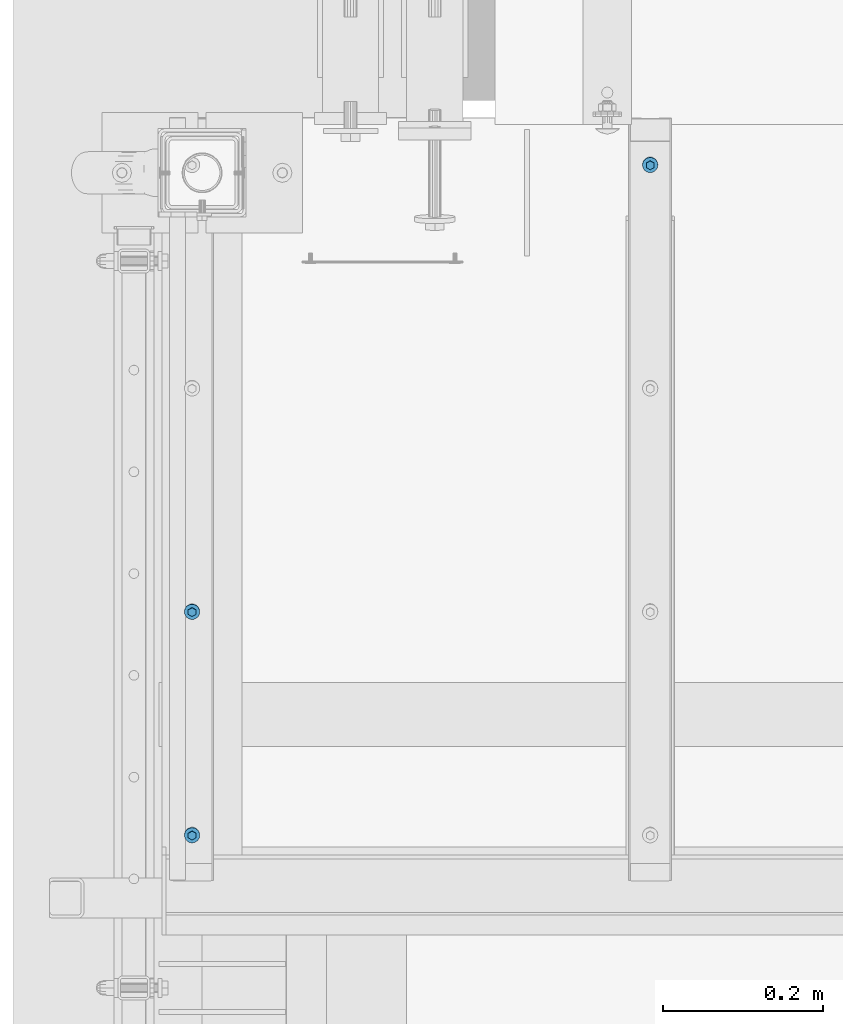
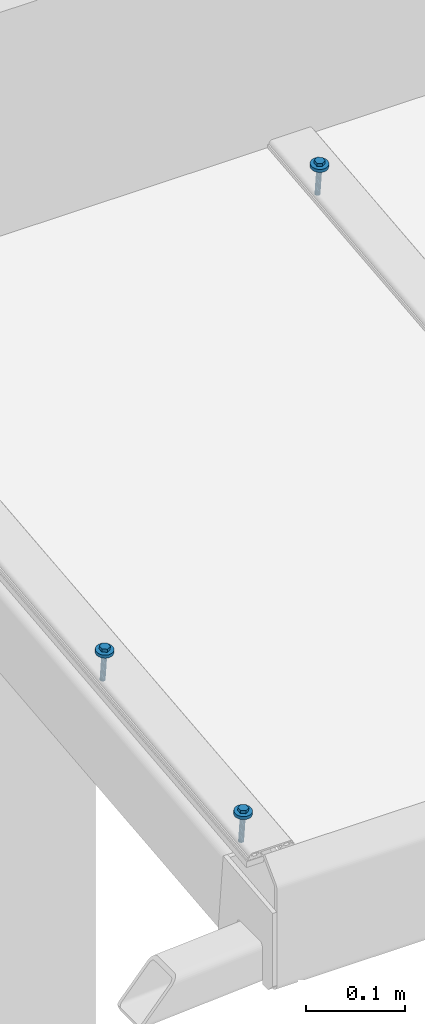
# One storey, part 57 of 116: 3 mechanical fasteners.
"""IFC2X3 building model written with IfcOpenShell, lengths in millimetres."""

from ifc_helpers import new_model, entity, si_unit, converted_unit, origin_with_axes, place, context, project, spatial, faceted_brep, element, save


model = new_model("IFC2X3")

# Units and contexts
model_context = context("Model", 3, precision=1e-09, world=origin_with_axes())
ifc_project = project(units=[si_unit("LENGTHUNIT", "METRE", prefix="MILLI"), si_unit("AREAUNIT", "SQUARE_METRE"), si_unit("VOLUMEUNIT", "CUBIC_METRE"), converted_unit("PLANEANGLEUNIT", "DEGREE", entity("IfcPlaneAngleMeasure", 0.01745329), si_unit("PLANEANGLEUNIT", "RADIAN"), dimensions=[0, 0, 0, 0, 0, 0, 0])], contexts=[model_context])

# Site, building, storey
site_placement = place(None, origin_with_axes())
site = spatial("IfcSite", under=ifc_project, at=site_placement, Name="Site", CompositionType="ELEMENT")
building_placement = place(site_placement, origin_with_axes())
building = spatial("IfcBuilding", under=site, at=building_placement, Name="Struktur 1", CompositionType="ELEMENT")
storey_placement = place(building_placement, origin_with_axes())
storey = spatial("IfcBuildingStorey", under=building, at=storey_placement, Name="Default Storey", CompositionType="ELEMENT", Elevation=0.0)

# Mechanical fasteners
mechanical_fastener_1_placement = place(None, origin_with_axes())
element("IfcMechanicalFastener", 1, at=mechanical_fastener_1_placement, inside=storey, ObjectType="-", NominalDiameter=6.0, NominalLength=40.0, context=model_context, shape_type="Brep", body=[
    faceted_brep([(55886.049134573, 11972.018174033, 2614.908351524), (55886.049134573, 11972.436287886, 2610.930263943), (55886.231674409, 11970.593082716, 2610.736535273), (55886.231674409, 11970.174968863, 2614.714622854), (55886.772279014, 11968.820710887, 2610.550251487), (55886.772279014, 11968.402597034, 2614.528339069), (55887.650173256, 11967.187283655, 2610.378571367), (55887.650173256, 11966.769169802, 2614.356658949), (55888.831620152, 11965.755572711, 2610.228092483), (55888.831620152, 11965.337458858, 2614.206180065), (55890.27121736, 11964.580597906, 2610.104597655), (55890.27121736, 11964.162484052, 2614.082685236), (55891.913641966, 11963.70751286, 2610.012832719), (55891.913641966, 11963.289399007, 2613.9909203), (55893.695776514, 11963.169869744, 2609.95632415), (55893.695776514, 11962.751755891, 2613.934411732), (55895.549134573, 11962.98832988, 2609.937243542), (55895.549134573, 11962.570216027, 2613.915331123), (55897.402492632, 11963.169869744, 2609.95632415), (55897.402492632, 11962.751755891, 2613.934411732), (55899.184627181, 11963.70751286, 2610.012832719), (55899.184627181, 11963.289399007, 2613.9909203), (55900.827051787, 11964.580597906, 2610.104597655), (55900.827051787, 11964.162484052, 2614.082685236), (55902.266648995, 11965.755572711, 2610.228092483), (55902.266648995, 11965.337458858, 2614.206180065), (55903.44809589, 11967.187283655, 2610.378571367), (55903.44809589, 11966.769169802, 2614.356658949), (55904.325990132, 11968.820710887, 2610.550251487), (55904.325990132, 11968.402597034, 2614.528339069), (55904.866594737, 11970.593082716, 2610.736535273), (55904.866594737, 11970.174968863, 2614.714622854), (55905.049134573, 11972.436287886, 2610.930263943), (55905.049134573, 11972.018174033, 2614.908351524), (55904.866594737, 11974.279493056, 2611.123992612), (55904.866594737, 11973.861379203, 2615.102080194), (55904.325990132, 11976.051864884, 2611.310276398), (55904.325990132, 11975.633751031, 2615.28836398), (55903.44809589, 11977.685292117, 2611.481956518), (55903.44809589, 11977.267178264, 2615.4600441), (55902.266648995, 11979.11700306, 2611.632435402), (55902.266648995, 11978.698889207, 2615.610522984), (55900.827051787, 11980.291977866, 2611.755930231), (55900.827051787, 11979.873864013, 2615.734017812), (55899.184627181, 11981.165062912, 2611.847695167), (55899.184627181, 11980.746949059, 2615.825782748), (55897.402492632, 11981.702706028, 2611.904203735), (55897.402492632, 11981.284592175, 2615.882291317), (55895.549134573, 11981.884245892, 2611.923284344), (55895.549134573, 11981.466132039, 2615.901371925), (55893.695776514, 11981.702706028, 2611.904203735), (55893.695776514, 11981.284592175, 2615.882291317), (55891.913641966, 11981.165062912, 2611.847695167), (55891.913641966, 11980.746949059, 2615.825782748), (55890.27121736, 11980.291977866, 2611.755930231), (55890.27121736, 11979.873864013, 2615.734017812), (55888.831620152, 11979.11700306, 2611.632435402), (55888.831620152, 11978.698889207, 2615.610522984), (55887.650173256, 11977.685292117, 2611.481956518), (55887.650173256, 11977.267178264, 2615.4600441), (55886.772279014, 11976.051864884, 2611.310276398), (55886.772279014, 11975.633751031, 2615.28836398), (55886.231674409, 11974.279493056, 2611.123992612), (55886.231674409, 11973.861379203, 2615.102080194)], [[[0, 1, 2, 3]], [[3, 2, 4, 5]], [[5, 4, 6, 7]], [[7, 6, 8, 9]], [[9, 8, 10, 11]], [[11, 10, 12, 13]], [[13, 12, 14, 15]], [[15, 14, 16, 17]], [[17, 16, 18, 19]], [[19, 18, 20, 21]], [[21, 20, 22, 23]], [[23, 22, 24, 25]], [[25, 24, 26, 27]], [[27, 26, 28, 29]], [[29, 28, 30, 31]], [[31, 30, 32, 33]], [[33, 32, 34, 35]], [[35, 34, 36, 37]], [[37, 36, 38, 39]], [[39, 38, 40, 41]], [[41, 40, 42, 43]], [[43, 42, 44, 45]], [[45, 44, 46, 47]], [[47, 46, 48, 49]], [[49, 48, 50, 51]], [[51, 50, 52, 53]], [[53, 52, 54, 55]], [[55, 54, 56, 57]], [[57, 56, 58, 59]], [[59, 58, 60, 61]], [[61, 60, 62, 63]], [[63, 62, 1, 0]], [[0, 3, 5, 7, 9, 11, 13, 15, 17, 19, 21, 23, 25, 27, 29, 31, 33, 35, 37, 39, 41, 43, 45, 47, 49, 51, 53, 55, 57, 59, 61, 63]], [[1, 62, 60, 58, 56, 54, 52, 50, 48, 46, 44, 42, 40, 38, 36, 34, 32, 30, 28, 26, 24, 22, 20, 18, 16, 14, 12, 10, 8, 6, 4, 2]]]),
    faceted_brep([(55900.333924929, 11969.270807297, 2614.619591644), (55900.333924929, 11968.852693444, 2618.597679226), (55895.549134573, 11966.105326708, 2618.308919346), (55895.549134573, 11966.523440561, 2614.330831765), (55890.764344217, 11968.852693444, 2618.597679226), (55890.764344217, 11969.270807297, 2614.619591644), (55890.764344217, 11974.347426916, 2619.175198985), (55890.764344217, 11974.765540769, 2615.197111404), (55895.549134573, 11977.094793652, 2619.463958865), (55895.549134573, 11977.512907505, 2615.485871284), (55900.333924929, 11974.347426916, 2619.175198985), (55900.333924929, 11974.765540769, 2615.197111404)], [[[0, 1, 2, 3]], [[3, 2, 4, 5]], [[5, 4, 6, 7]], [[7, 6, 8, 9]], [[9, 8, 10, 11]], [[11, 10, 1, 0]], [[4, 2, 1, 10, 8, 6]], [[0, 3, 5, 7, 9, 11]]]),
    faceted_brep([(55892.549134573, 11972.436287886, 2610.930263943), (55892.549134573, 11975.78119871, 2579.105563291), (55892.777495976, 11974.639437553, 2578.985559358), (55892.777495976, 11971.294526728, 2610.810260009), (55893.42781423, 11973.671499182, 2578.883824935), (55893.42781423, 11970.326588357, 2610.708525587), (55894.401084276, 11973.024743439, 2578.815848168), (55894.401084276, 11969.679832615, 2610.640548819), (55895.549134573, 11972.797633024, 2578.791977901), (55895.549134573, 11969.4527222, 2610.616678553), (55896.69718487, 11973.024743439, 2578.815848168), (55896.69718487, 11969.679832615, 2610.640548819), (55897.670454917, 11973.671499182, 2578.883824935), (55897.670454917, 11970.326588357, 2610.708525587), (55898.320773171, 11974.639437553, 2578.985559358), (55898.320773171, 11971.294526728, 2610.810260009), (55898.549134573, 11975.78119871, 2579.105563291), (55898.549134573, 11972.436287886, 2610.930263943), (55898.320773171, 11976.922959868, 2579.225567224), (55898.320773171, 11973.578049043, 2611.050267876), (55897.670454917, 11977.890898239, 2579.327301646), (55897.670454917, 11974.545987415, 2611.152002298), (55896.69718487, 11978.537653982, 2579.395278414), (55896.69718487, 11975.192743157, 2611.219979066), (55895.549134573, 11978.764764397, 2579.419148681), (55895.549134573, 11975.419853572, 2611.243849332), (55894.401084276, 11978.537653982, 2579.395278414), (55894.401084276, 11975.192743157, 2611.219979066), (55893.42781423, 11977.890898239, 2579.327301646), (55893.42781423, 11974.545987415, 2611.152002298), (55892.777495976, 11976.922959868, 2579.225567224), (55892.777495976, 11973.578049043, 2611.050267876)], [[[0, 1, 2, 3]], [[3, 2, 4, 5]], [[5, 4, 6, 7]], [[7, 6, 8, 9]], [[9, 8, 10, 11]], [[11, 10, 12, 13]], [[13, 12, 14, 15]], [[15, 14, 16, 17]], [[17, 16, 18, 19]], [[19, 18, 20, 21]], [[21, 20, 22, 23]], [[23, 22, 24, 25]], [[25, 24, 26, 27]], [[27, 26, 28, 29]], [[29, 28, 30, 31]], [[31, 30, 1, 0]], [[0, 3, 5, 7, 9, 11, 13, 15, 17, 19, 21, 23, 25, 27, 29, 31]], [[1, 30, 28, 26, 24, 22, 20, 18, 16, 14, 12, 10, 8, 6, 4, 2]]]),
    faceted_brep([(55892.549134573, 11975.78119871, 2579.105563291), (55892.549134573, 11976.199312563, 2575.127475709), (55892.777495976, 11975.057551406, 2575.007471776), (55892.777495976, 11974.639437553, 2578.985559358), (55893.42781423, 11974.089613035, 2574.905737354), (55893.42781423, 11973.671499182, 2578.883824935), (55894.401084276, 11973.442857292, 2574.837760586), (55894.401084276, 11973.024743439, 2578.815848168), (55895.549134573, 11973.215746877, 2574.81389032), (55895.549134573, 11972.797633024, 2578.791977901), (55896.69718487, 11973.442857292, 2574.837760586), (55896.69718487, 11973.024743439, 2578.815848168), (55897.670454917, 11974.089613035, 2574.905737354), (55897.670454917, 11973.671499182, 2578.883824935), (55898.320773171, 11975.057551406, 2575.007471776), (55898.320773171, 11974.639437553, 2578.985559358), (55898.549134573, 11976.199312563, 2575.127475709), (55898.549134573, 11975.78119871, 2579.105563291), (55898.320773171, 11977.341073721, 2575.247479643), (55898.320773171, 11976.922959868, 2579.225567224), (55897.670454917, 11978.309012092, 2575.349214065), (55897.670454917, 11977.890898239, 2579.327301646), (55896.69718487, 11978.955767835, 2575.417190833), (55896.69718487, 11978.537653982, 2579.395278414), (55895.549134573, 11979.18287825, 2575.441061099), (55895.549134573, 11978.764764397, 2579.419148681), (55894.401084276, 11978.955767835, 2575.417190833), (55894.401084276, 11978.537653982, 2579.395278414), (55893.42781423, 11978.309012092, 2575.349214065), (55893.42781423, 11977.890898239, 2579.327301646), (55892.777495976, 11977.341073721, 2575.247479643), (55892.777495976, 11976.922959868, 2579.225567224)], [[[0, 1, 2, 3]], [[3, 2, 4, 5]], [[5, 4, 6, 7]], [[7, 6, 8, 9]], [[9, 8, 10, 11]], [[11, 10, 12, 13]], [[13, 12, 14, 15]], [[15, 14, 16, 17]], [[17, 16, 18, 19]], [[19, 18, 20, 21]], [[21, 20, 22, 23]], [[23, 22, 24, 25]], [[25, 24, 26, 27]], [[27, 26, 28, 29]], [[29, 28, 30, 31]], [[31, 30, 1, 0]], [[0, 3, 5, 7, 9, 11, 13, 15, 17, 19, 21, 23, 25, 27, 29, 31]], [[1, 30, 28, 26, 24, 22, 20, 18, 16, 14, 12, 10, 8, 6, 4, 2]]]),
])
mechanical_fastener_2_placement = place(None, origin_with_axes())
element("IfcMechanicalFastener", 2, at=mechanical_fastener_2_placement, inside=storey, ObjectType="-", NominalDiameter=6.0, NominalLength=40.0, context=model_context, shape_type="Brep", body=[
    faceted_brep([(55334.04913457, 11137.037895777, 2523.126354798), (55334.04913457, 11136.619781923, 2527.104442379), (55333.866594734, 11134.776576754, 2526.91071371), (55333.866594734, 11135.194690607, 2522.932626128), (55333.325990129, 11133.004204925, 2526.724429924), (55333.325990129, 11133.422318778, 2522.746342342), (55332.448095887, 11131.370777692, 2526.552749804), (55332.448095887, 11131.788891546, 2522.574662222), (55331.266648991, 11129.939066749, 2526.40227092), (55331.266648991, 11130.357180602, 2522.424183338), (55329.827051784, 11128.764091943, 2526.278776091), (55329.827051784, 11129.182205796, 2522.30068851), (55328.184627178, 11127.891006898, 2526.187011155), (55328.184627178, 11128.309120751, 2522.208923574), (55326.402492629, 11127.353363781, 2526.130502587), (55326.402492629, 11127.771477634, 2522.152415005), (55324.54913457, 11127.171823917, 2526.111421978), (55324.54913457, 11127.589937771, 2522.133334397), (55322.695776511, 11127.353363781, 2526.130502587), (55322.695776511, 11127.771477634, 2522.152415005), (55320.913641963, 11127.891006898, 2526.187011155), (55320.913641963, 11128.309120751, 2522.208923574), (55319.271217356, 11128.764091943, 2526.278776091), (55319.271217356, 11129.182205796, 2522.30068851), (55317.831620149, 11129.939066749, 2526.40227092), (55317.831620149, 11130.357180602, 2522.424183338), (55316.650173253, 11131.370777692, 2526.552749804), (55316.650173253, 11131.788891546, 2522.574662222), (55315.772279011, 11133.004204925, 2526.724429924), (55315.772279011, 11133.422318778, 2522.746342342), (55315.231674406, 11134.776576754, 2526.91071371), (55315.231674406, 11135.194690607, 2522.932626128), (55315.04913457, 11136.619781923, 2527.104442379), (55315.04913457, 11137.037895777, 2523.126354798), (55315.231674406, 11138.462987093, 2527.298171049), (55315.231674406, 11138.881100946, 2523.320083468), (55315.772279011, 11140.235358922, 2527.484454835), (55315.772279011, 11140.653472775, 2523.506367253), (55316.650173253, 11141.868786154, 2527.656134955), (55316.650173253, 11142.286900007, 2523.678047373), (55317.831620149, 11143.300497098, 2527.806613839), (55317.831620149, 11143.718610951, 2523.828526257), (55319.271217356, 11144.475471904, 2527.930108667), (55319.271217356, 11144.893585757, 2523.952021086), (55320.913641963, 11145.348556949, 2528.021873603), (55320.913641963, 11145.766670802, 2524.043786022), (55322.695776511, 11145.886200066, 2528.078382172), (55322.695776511, 11146.304313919, 2524.10029459), (55324.54913457, 11146.067739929, 2528.09746278), (55324.54913457, 11146.485853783, 2524.119375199), (55326.402492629, 11145.886200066, 2528.078382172), (55326.402492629, 11146.304313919, 2524.10029459), (55328.184627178, 11145.348556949, 2528.021873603), (55328.184627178, 11145.766670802, 2524.043786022), (55329.827051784, 11144.475471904, 2527.930108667), (55329.827051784, 11144.893585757, 2523.952021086), (55331.266648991, 11143.300497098, 2527.806613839), (55331.266648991, 11143.718610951, 2523.828526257), (55332.448095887, 11141.868786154, 2527.656134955), (55332.448095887, 11142.286900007, 2523.678047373), (55333.325990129, 11140.235358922, 2527.484454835), (55333.325990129, 11140.653472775, 2523.506367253), (55333.866594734, 11138.462987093, 2527.298171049), (55333.866594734, 11138.881100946, 2523.320083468)], [[[0, 1, 2, 3]], [[3, 2, 4, 5]], [[5, 4, 6, 7]], [[7, 6, 8, 9]], [[9, 8, 10, 11]], [[11, 10, 12, 13]], [[13, 12, 14, 15]], [[15, 14, 16, 17]], [[17, 16, 18, 19]], [[19, 18, 20, 21]], [[21, 20, 22, 23]], [[23, 22, 24, 25]], [[25, 24, 26, 27]], [[27, 26, 28, 29]], [[29, 28, 30, 31]], [[31, 30, 32, 33]], [[33, 32, 34, 35]], [[35, 34, 36, 37]], [[37, 36, 38, 39]], [[39, 38, 40, 41]], [[41, 40, 42, 43]], [[43, 42, 44, 45]], [[45, 44, 46, 47]], [[47, 46, 48, 49]], [[49, 48, 50, 51]], [[51, 50, 52, 53]], [[53, 52, 54, 55]], [[55, 54, 56, 57]], [[57, 56, 58, 59]], [[59, 58, 60, 61]], [[61, 60, 62, 63]], [[63, 62, 1, 0]], [[2, 1, 62, 60, 58, 56, 54, 52, 50, 48, 46, 44, 42, 40, 38, 36, 34, 32, 30, 28, 26, 24, 22, 20, 18, 16, 14, 12, 10, 8, 6, 4]], [[63, 0, 3, 5, 7, 9, 11, 13, 15, 17, 19, 21, 23, 25, 27, 29, 31, 33, 35, 37, 39, 41, 43, 45, 47, 49, 51, 53, 55, 57, 59, 61]]]),
    faceted_brep([(55319.764344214, 11133.454301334, 2530.793770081), (55319.764344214, 11133.872415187, 2526.8156825), (55324.54913457, 11131.125048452, 2526.52692262), (55324.54913457, 11130.706934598, 2530.505010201), (55329.333924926, 11133.872415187, 2526.8156825), (55329.333924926, 11133.454301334, 2530.793770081), (55329.333924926, 11139.367148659, 2527.393202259), (55329.333924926, 11138.949034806, 2531.371289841), (55324.54913457, 11142.114515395, 2527.681962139), (55324.54913457, 11141.696401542, 2531.66004972), (55319.764344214, 11139.367148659, 2527.393202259), (55319.764344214, 11138.949034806, 2531.371289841)], [[[0, 1, 2, 3]], [[3, 2, 4, 5]], [[5, 4, 6, 7]], [[7, 6, 8, 9]], [[9, 8, 10, 11]], [[11, 10, 1, 0]], [[3, 5, 7, 9, 11, 0]], [[2, 1, 10, 8, 6, 4]]]),
    faceted_brep([(55327.54913457, 11140.382806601, 2491.301654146), (55327.54913457, 11137.037895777, 2523.126354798), (55327.320773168, 11135.896134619, 2523.006350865), (55327.320773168, 11139.241045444, 2491.181650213), (55326.670454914, 11134.928196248, 2522.904616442), (55326.670454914, 11138.273107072, 2491.07991579), (55325.697184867, 11134.281440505, 2522.836639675), (55325.697184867, 11137.62635133, 2491.011939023), (55324.54913457, 11134.05433009, 2522.812769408), (55324.54913457, 11137.399240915, 2490.988068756), (55323.401084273, 11134.281440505, 2522.836639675), (55323.401084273, 11137.62635133, 2491.011939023), (55322.427814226, 11134.928196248, 2522.904616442), (55322.427814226, 11138.273107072, 2491.07991579), (55321.777495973, 11135.896134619, 2523.006350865), (55321.777495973, 11139.241045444, 2491.181650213), (55321.54913457, 11137.037895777, 2523.126354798), (55321.54913457, 11140.382806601, 2491.301654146), (55321.777495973, 11138.179656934, 2523.246358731), (55321.777495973, 11141.524567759, 2491.421658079), (55322.427814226, 11139.147595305, 2523.348093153), (55322.427814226, 11142.49250613, 2491.523392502), (55323.401084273, 11139.794351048, 2523.416069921), (55323.401084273, 11143.139261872, 2491.591369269), (55324.54913457, 11140.021461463, 2523.439940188), (55324.54913457, 11143.366372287, 2491.615239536), (55325.697184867, 11139.794351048, 2523.416069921), (55325.697184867, 11143.139261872, 2491.591369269), (55326.670454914, 11139.147595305, 2523.348093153), (55326.670454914, 11142.49250613, 2491.523392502), (55327.320773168, 11138.179656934, 2523.246358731), (55327.320773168, 11141.524567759, 2491.421658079)], [[[0, 1, 2, 3]], [[3, 2, 4, 5]], [[5, 4, 6, 7]], [[7, 6, 8, 9]], [[9, 8, 10, 11]], [[11, 10, 12, 13]], [[13, 12, 14, 15]], [[15, 14, 16, 17]], [[17, 16, 18, 19]], [[19, 18, 20, 21]], [[21, 20, 22, 23]], [[23, 22, 24, 25]], [[25, 24, 26, 27]], [[27, 26, 28, 29]], [[29, 28, 30, 31]], [[31, 30, 1, 0]], [[2, 1, 30, 28, 26, 24, 22, 20, 18, 16, 14, 12, 10, 8, 6, 4]], [[31, 0, 3, 5, 7, 9, 11, 13, 15, 17, 19, 21, 23, 25, 27, 29]]]),
    faceted_brep([(55327.54913457, 11140.800920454, 2487.323566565), (55327.54913457, 11140.382806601, 2491.301654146), (55327.320773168, 11139.241045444, 2491.181650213), (55327.320773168, 11139.659159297, 2487.203562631), (55326.670454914, 11138.273107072, 2491.07991579), (55326.670454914, 11138.691220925, 2487.101828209), (55325.697184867, 11137.62635133, 2491.011939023), (55325.697184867, 11138.044465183, 2487.033851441), (55324.54913457, 11137.399240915, 2490.988068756), (55324.54913457, 11137.817354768, 2487.009981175), (55323.401084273, 11137.62635133, 2491.011939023), (55323.401084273, 11138.044465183, 2487.033851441), (55322.427814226, 11138.273107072, 2491.07991579), (55322.427814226, 11138.691220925, 2487.101828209), (55321.777495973, 11139.241045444, 2491.181650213), (55321.777495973, 11139.659159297, 2487.203562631), (55321.54913457, 11140.382806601, 2491.301654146), (55321.54913457, 11140.800920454, 2487.323566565), (55321.777495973, 11141.524567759, 2491.421658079), (55321.777495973, 11141.942681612, 2487.443570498), (55322.427814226, 11142.49250613, 2491.523392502), (55322.427814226, 11142.910619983, 2487.54530492), (55323.401084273, 11143.139261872, 2491.591369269), (55323.401084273, 11143.557375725, 2487.613281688), (55324.54913457, 11143.366372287, 2491.615239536), (55324.54913457, 11143.78448614, 2487.637151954), (55325.697184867, 11143.139261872, 2491.591369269), (55325.697184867, 11143.557375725, 2487.613281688), (55326.670454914, 11142.49250613, 2491.523392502), (55326.670454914, 11142.910619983, 2487.54530492), (55327.320773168, 11141.524567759, 2491.421658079), (55327.320773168, 11141.942681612, 2487.443570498)], [[[0, 1, 2, 3]], [[3, 2, 4, 5]], [[5, 4, 6, 7]], [[7, 6, 8, 9]], [[9, 8, 10, 11]], [[11, 10, 12, 13]], [[13, 12, 14, 15]], [[15, 14, 16, 17]], [[17, 16, 18, 19]], [[19, 18, 20, 21]], [[21, 20, 22, 23]], [[23, 22, 24, 25]], [[25, 24, 26, 27]], [[27, 26, 28, 29]], [[29, 28, 30, 31]], [[31, 30, 1, 0]], [[2, 1, 30, 28, 26, 24, 22, 20, 18, 16, 14, 12, 10, 8, 6, 4]], [[31, 0, 3, 5, 7, 9, 11, 13, 15, 17, 19, 21, 23, 25, 27, 29]]]),
])
mechanical_fastener_3_placement = place(None, origin_with_axes())
element("IfcMechanicalFastener", 3, at=mechanical_fastener_3_placement, inside=storey, ObjectType="-", NominalDiameter=6.0, NominalLength=40.0, context=model_context, shape_type="Brep", body=[
    faceted_brep([(55334.04913457, 11415.50402648, 2552.394324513), (55334.04913457, 11415.085912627, 2556.372412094), (55333.866594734, 11413.242707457, 2556.178683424), (55333.866594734, 11413.66082131, 2552.200595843), (55333.325990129, 11411.470335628, 2555.992399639), (55333.325990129, 11411.888449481, 2552.014312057), (55332.448095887, 11409.836908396, 2555.820719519), (55332.448095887, 11410.255022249, 2551.842631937), (55331.266648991, 11408.405197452, 2555.670240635), (55331.266648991, 11408.823311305, 2551.692153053), (55329.827051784, 11407.230222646, 2555.546745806), (55329.827051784, 11407.648336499, 2551.568658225), (55328.184627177, 11406.357137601, 2555.45498087), (55328.184627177, 11406.775251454, 2551.476893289), (55326.402492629, 11405.819494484, 2555.398472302), (55326.402492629, 11406.237608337, 2551.42038472), (55324.54913457, 11405.637954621, 2555.379391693), (55324.54913457, 11406.056068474, 2551.401304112), (55322.695776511, 11405.819494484, 2555.398472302), (55322.695776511, 11406.237608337, 2551.42038472), (55320.913641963, 11406.357137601, 2555.45498087), (55320.913641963, 11406.775251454, 2551.476893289), (55319.271217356, 11407.230222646, 2555.546745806), (55319.271217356, 11407.648336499, 2551.568658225), (55317.831620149, 11408.405197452, 2555.670240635), (55317.831620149, 11408.823311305, 2551.692153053), (55316.650173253, 11409.836908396, 2555.820719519), (55316.650173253, 11410.255022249, 2551.842631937), (55315.772279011, 11411.470335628, 2555.992399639), (55315.772279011, 11411.888449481, 2552.014312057), (55315.231674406, 11413.242707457, 2556.178683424), (55315.231674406, 11413.66082131, 2552.200595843), (55315.04913457, 11415.085912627, 2556.372412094), (55315.04913457, 11415.50402648, 2552.394324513), (55315.231674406, 11416.929117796, 2556.566140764), (55315.231674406, 11417.347231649, 2552.588053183), (55315.772279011, 11418.701489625, 2556.75242455), (55315.772279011, 11419.119603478, 2552.774336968), (55316.650173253, 11420.334916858, 2556.92410467), (55316.650173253, 11420.753030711, 2552.946017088), (55317.831620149, 11421.766627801, 2557.074583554), (55317.831620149, 11422.184741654, 2553.096495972), (55319.271217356, 11422.941602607, 2557.198078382), (55319.271217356, 11423.35971646, 2553.219990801), (55320.913641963, 11423.814687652, 2557.289843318), (55320.913641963, 11424.232801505, 2553.311755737), (55322.695776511, 11424.352330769, 2557.346351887), (55322.695776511, 11424.770444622, 2553.368264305), (55324.54913457, 11424.533870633, 2557.365432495), (55324.54913457, 11424.951984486, 2553.387344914), (55326.402492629, 11424.352330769, 2557.346351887), (55326.402492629, 11424.770444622, 2553.368264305), (55328.184627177, 11423.814687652, 2557.289843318), (55328.184627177, 11424.232801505, 2553.311755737), (55329.827051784, 11422.941602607, 2557.198078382), (55329.827051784, 11423.35971646, 2553.219990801), (55331.266648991, 11421.766627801, 2557.074583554), (55331.266648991, 11422.184741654, 2553.096495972), (55332.448095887, 11420.334916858, 2556.92410467), (55332.448095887, 11420.753030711, 2552.946017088), (55333.325990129, 11418.701489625, 2556.75242455), (55333.325990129, 11419.119603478, 2552.774336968), (55333.866594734, 11416.929117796, 2556.566140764), (55333.866594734, 11417.347231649, 2552.588053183)], [[[0, 1, 2, 3]], [[3, 2, 4, 5]], [[5, 4, 6, 7]], [[7, 6, 8, 9]], [[9, 8, 10, 11]], [[11, 10, 12, 13]], [[13, 12, 14, 15]], [[15, 14, 16, 17]], [[17, 16, 18, 19]], [[19, 18, 20, 21]], [[21, 20, 22, 23]], [[23, 22, 24, 25]], [[25, 24, 26, 27]], [[27, 26, 28, 29]], [[29, 28, 30, 31]], [[31, 30, 32, 33]], [[33, 32, 34, 35]], [[35, 34, 36, 37]], [[37, 36, 38, 39]], [[39, 38, 40, 41]], [[41, 40, 42, 43]], [[43, 42, 44, 45]], [[45, 44, 46, 47]], [[47, 46, 48, 49]], [[49, 48, 50, 51]], [[51, 50, 52, 53]], [[53, 52, 54, 55]], [[55, 54, 56, 57]], [[57, 56, 58, 59]], [[59, 58, 60, 61]], [[61, 60, 62, 63]], [[63, 62, 1, 0]], [[2, 1, 62, 60, 58, 56, 54, 52, 50, 48, 46, 44, 42, 40, 38, 36, 34, 32, 30, 28, 26, 24, 22, 20, 18, 16, 14, 12, 10, 8, 6, 4]], [[63, 0, 3, 5, 7, 9, 11, 13, 15, 17, 19, 21, 23, 25, 27, 29, 31, 33, 35, 37, 39, 41, 43, 45, 47, 49, 51, 53, 55, 57, 59, 61]]]),
    faceted_brep([(55319.764344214, 11411.920432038, 2560.061739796), (55319.764344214, 11412.338545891, 2556.083652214), (55324.54913457, 11409.591179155, 2555.794892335), (55324.54913457, 11409.173065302, 2559.772979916), (55329.333924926, 11412.338545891, 2556.083652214), (55329.333924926, 11411.920432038, 2560.061739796), (55329.333924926, 11417.833279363, 2556.661171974), (55329.333924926, 11417.415165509, 2560.639259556), (55324.54913457, 11420.580646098, 2556.949931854), (55324.54913457, 11420.162532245, 2560.928019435), (55319.764344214, 11417.833279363, 2556.661171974), (55319.764344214, 11417.415165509, 2560.639259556)], [[[0, 1, 2, 3]], [[3, 2, 4, 5]], [[5, 4, 6, 7]], [[7, 6, 8, 9]], [[9, 8, 10, 11]], [[11, 10, 1, 0]], [[3, 5, 7, 9, 11, 0]], [[2, 1, 10, 8, 6, 4]]]),
    faceted_brep([(55327.54913457, 11418.848937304, 2520.569623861), (55327.54913457, 11415.50402648, 2552.394324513), (55327.320773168, 11414.362265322, 2552.274320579), (55327.320773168, 11417.707176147, 2520.449619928), (55326.670454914, 11413.394326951, 2552.172586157), (55326.670454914, 11416.739237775, 2520.347885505), (55325.697184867, 11412.747571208, 2552.104609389), (55325.697184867, 11416.092482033, 2520.279908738), (55324.54913457, 11412.520460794, 2552.080739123), (55324.54913457, 11415.865371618, 2520.256038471), (55323.401084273, 11412.747571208, 2552.104609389), (55323.401084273, 11416.092482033, 2520.279908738), (55322.427814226, 11413.394326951, 2552.172586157), (55322.427814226, 11416.739237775, 2520.347885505), (55321.777495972, 11414.362265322, 2552.274320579), (55321.777495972, 11417.707176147, 2520.449619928), (55321.54913457, 11415.50402648, 2552.394324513), (55321.54913457, 11418.848937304, 2520.569623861), (55321.777495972, 11416.645787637, 2552.514328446), (55321.777495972, 11419.990698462, 2520.689627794), (55322.427814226, 11417.613726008, 2552.616062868), (55322.427814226, 11420.958636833, 2520.791362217), (55323.401084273, 11418.260481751, 2552.684039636), (55323.401084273, 11421.605392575, 2520.859338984), (55324.54913457, 11418.487592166, 2552.707909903), (55324.54913457, 11421.83250299, 2520.883209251), (55325.697184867, 11418.260481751, 2552.684039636), (55325.697184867, 11421.605392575, 2520.859338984), (55326.670454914, 11417.613726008, 2552.616062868), (55326.670454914, 11420.958636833, 2520.791362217), (55327.320773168, 11416.645787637, 2552.514328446), (55327.320773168, 11419.990698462, 2520.689627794)], [[[0, 1, 2, 3]], [[3, 2, 4, 5]], [[5, 4, 6, 7]], [[7, 6, 8, 9]], [[9, 8, 10, 11]], [[11, 10, 12, 13]], [[13, 12, 14, 15]], [[15, 14, 16, 17]], [[17, 16, 18, 19]], [[19, 18, 20, 21]], [[21, 20, 22, 23]], [[23, 22, 24, 25]], [[25, 24, 26, 27]], [[27, 26, 28, 29]], [[29, 28, 30, 31]], [[31, 30, 1, 0]], [[2, 1, 30, 28, 26, 24, 22, 20, 18, 16, 14, 12, 10, 8, 6, 4]], [[31, 0, 3, 5, 7, 9, 11, 13, 15, 17, 19, 21, 23, 25, 27, 29]]]),
    faceted_brep([(55327.54913457, 11419.267051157, 2516.59153628), (55327.54913457, 11418.848937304, 2520.569623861), (55327.320773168, 11417.707176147, 2520.449619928), (55327.320773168, 11418.12529, 2516.471532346), (55326.670454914, 11416.739237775, 2520.347885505), (55326.670454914, 11417.157351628, 2516.369797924), (55325.697184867, 11416.092482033, 2520.279908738), (55325.697184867, 11416.510595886, 2516.301821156), (55324.54913457, 11415.865371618, 2520.256038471), (55324.54913457, 11416.283485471, 2516.27795089), (55323.401084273, 11416.092482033, 2520.279908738), (55323.401084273, 11416.510595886, 2516.301821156), (55322.427814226, 11416.739237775, 2520.347885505), (55322.427814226, 11417.157351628, 2516.369797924), (55321.777495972, 11417.707176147, 2520.449619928), (55321.777495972, 11418.12529, 2516.471532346), (55321.54913457, 11418.848937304, 2520.569623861), (55321.54913457, 11419.267051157, 2516.59153628), (55321.777495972, 11419.990698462, 2520.689627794), (55321.777495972, 11420.408812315, 2516.711540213), (55322.427814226, 11420.958636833, 2520.791362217), (55322.427814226, 11421.376750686, 2516.813274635), (55323.401084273, 11421.605392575, 2520.859338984), (55323.401084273, 11422.023506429, 2516.881251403), (55324.54913457, 11421.83250299, 2520.883209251), (55324.54913457, 11422.250616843, 2516.905121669), (55325.697184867, 11421.605392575, 2520.859338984), (55325.697184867, 11422.023506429, 2516.881251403), (55326.670454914, 11420.958636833, 2520.791362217), (55326.670454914, 11421.376750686, 2516.813274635), (55327.320773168, 11419.990698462, 2520.689627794), (55327.320773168, 11420.408812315, 2516.711540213)], [[[0, 1, 2, 3]], [[3, 2, 4, 5]], [[5, 4, 6, 7]], [[7, 6, 8, 9]], [[9, 8, 10, 11]], [[11, 10, 12, 13]], [[13, 12, 14, 15]], [[15, 14, 16, 17]], [[17, 16, 18, 19]], [[19, 18, 20, 21]], [[21, 20, 22, 23]], [[23, 22, 24, 25]], [[25, 24, 26, 27]], [[27, 26, 28, 29]], [[29, 28, 30, 31]], [[31, 30, 1, 0]], [[2, 1, 30, 28, 26, 24, 22, 20, 18, 16, 14, 12, 10, 8, 6, 4]], [[31, 0, 3, 5, 7, 9, 11, 13, 15, 17, 19, 21, 23, 25, 27, 29]]]),
])

save(model, "model.ifc")
